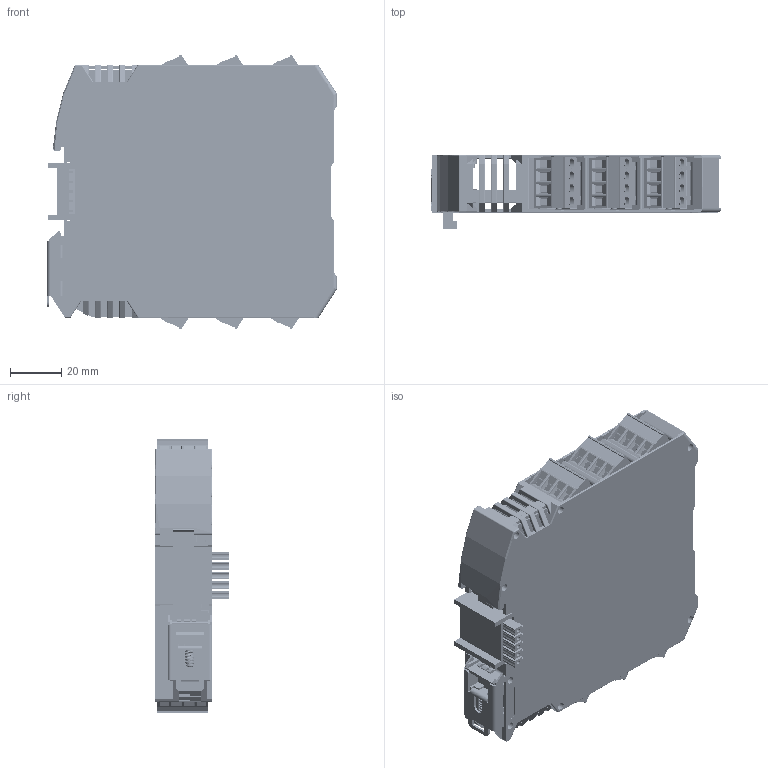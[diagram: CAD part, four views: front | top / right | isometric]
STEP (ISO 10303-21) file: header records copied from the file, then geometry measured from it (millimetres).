
FILE_DESCRIPTION(('STEP AP214'), '1');
FILE_NAME('NLS-485-USB-6I-ST — êîïèÿ — êîïèÿ', '', ('UNSPECIFIED'), ('UNSPECIFIED'), 'C3D Converter', 'C3D Toolkit', '');
FILE_SCHEMA(('AUTOMOTIVE_DESIGN { 1 0 10303 214 3 1 1}'));
Length unit declared in the file: millimetre
Bounding box: 113.65 x 29.21 x 107.56 mm (x, y, z)
Surface area: 107823.5 mm2
Topology: 50 solids, 60 shells, 9827 faces, 27992 edges, 18452 vertices
Faces by surface type: plane 5936, extrusion 2385, cylinder 1394, bspline 60, cone 50, torus 2
Full cylindrical faces by diameter (mm): 0.3 x172, 0.5 x19, 0.6 x3, 0.9 x31, 0.92 x4, 1 x3, 1.4 x28, 1.5 x24, 1.6 x11, 2.2 x6, 2.3 x2, 2.8 x25, 3 x16, 3.796 x24, 4 x24, 4.5 x1
Entity records: 412603 total; most frequent: CARTESIAN_POINT 87097, ORIENTED_EDGE 55189, DIRECTION 41865, EDGE_CURVE 27598, VECTOR 21611, LINE 19226, VERTEX_POINT 18452, EDGE_LOOP 11321
